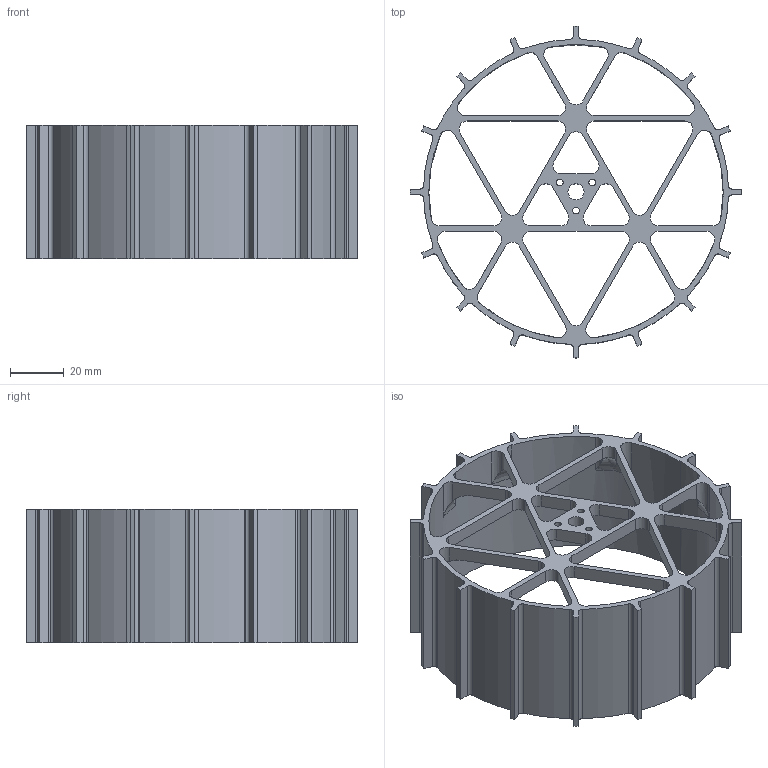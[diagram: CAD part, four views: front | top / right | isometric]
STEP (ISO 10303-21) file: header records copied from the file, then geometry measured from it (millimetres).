
FILE_DESCRIPTION (( 'STEP AP214' ), '1' );
FILE_NAME ('Laiemad_hambad.STEP', '2025-05-19T12:09:49', ( '' ), ( '' ), 'SwSTEP 2.0', 'SolidWorks 2024', '' );
FILE_SCHEMA (( 'AUTOMOTIVE_DESIGN' ));
Length unit declared in the file: millimetre
Products named in the file (1): Laiemad_hambad
Bounding box: 124 x 124 x 50 mm (x, y, z)
Volume: 52868.1 mm3; surface area: 52565 mm2
Topology: 1 solids, 1 shells, 238 faces, 729 edges, 479 vertices
Faces by surface type: cylinder 140, plane 71, torus 18, bspline 9
Entity records: 11217 total; most frequent: CARTESIAN_POINT 4505, ORIENTED_EDGE 1452, DIRECTION 1415, EDGE_CURVE 726, AXIS2_PLACEMENT_3D 528, VERTEX_POINT 479, VECTOR 359, LINE 359
